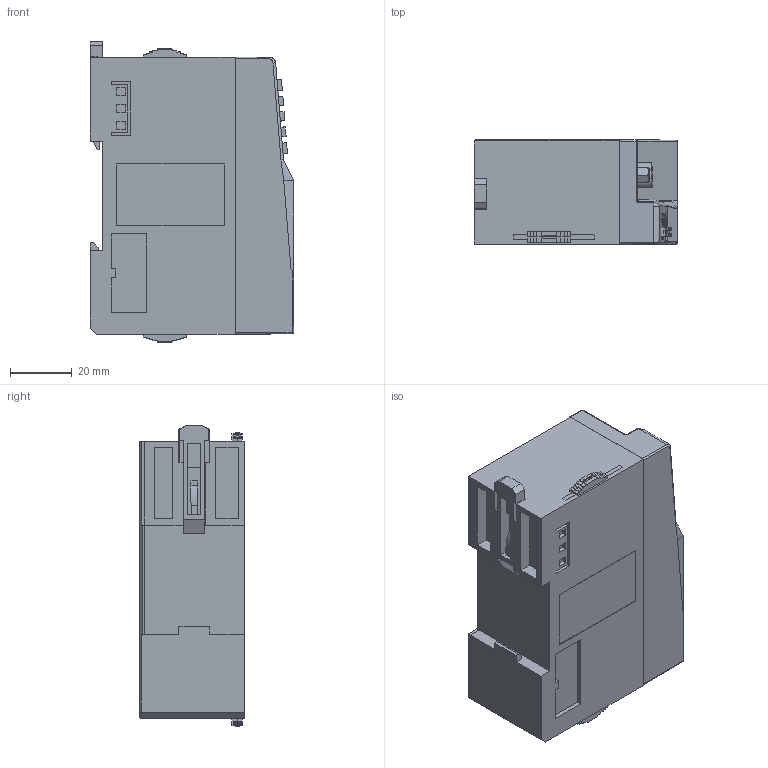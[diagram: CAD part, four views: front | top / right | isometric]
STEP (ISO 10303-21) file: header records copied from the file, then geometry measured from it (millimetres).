
FILE_DESCRIPTION(/* description */ (''),/* implementation_level */ '2;1');
FILE_NAME(/* name */ 'EX-DP适配器.stp',/* time_stamp */ '2022-01-17T11:45:56+08:00',/* author */ (''),/* organization */ (''),/* preprocessor_version */ 'ST-DEVELOPER v16',/* originating_system */ 'SIEMENS PLM Software NX 10.0',/* authorisation */ '');
FILE_SCHEMA (('AP203_CONFIGURATION_CONTROLLED_3D_DESIGN_OF_MECHANICAL_PARTS_AND_ASSEMBLIES_MIM_LF { 1 0 10303 403 2 1 2}'));
Products named in the file (1): 73494B50E7E6tzat
Bounding box: 66.02 x 34.02 x 97.82 mm (x, y, z)
Volume: 176510.7 mm3; surface area: 41365.3 mm2
Topology: 28 solids, 28 shells, 3078 faces, 8454 edges, 5516 vertices
Faces by surface type: plane 1979, cylinder 680, bspline 299, cone 78, torus 30, extrusion 8, sphere 4
Full cylindrical faces by diameter (mm): 0.6 x2, 1.2 x14, 3.121 x4, 3.2 x2, 3.3 x2, 3.5 x2, 4 x8, 6.05 x2, 6.15 x2
Entity records: 108987 total; most frequent: CARTESIAN_POINT 31979, ORIENTED_EDGE 16724, DIRECTION 14813, EDGE_CURVE 8362, VECTOR 6053, LINE 6045, VERTEX_POINT 5489, AXIS2_PLACEMENT_3D 4380
